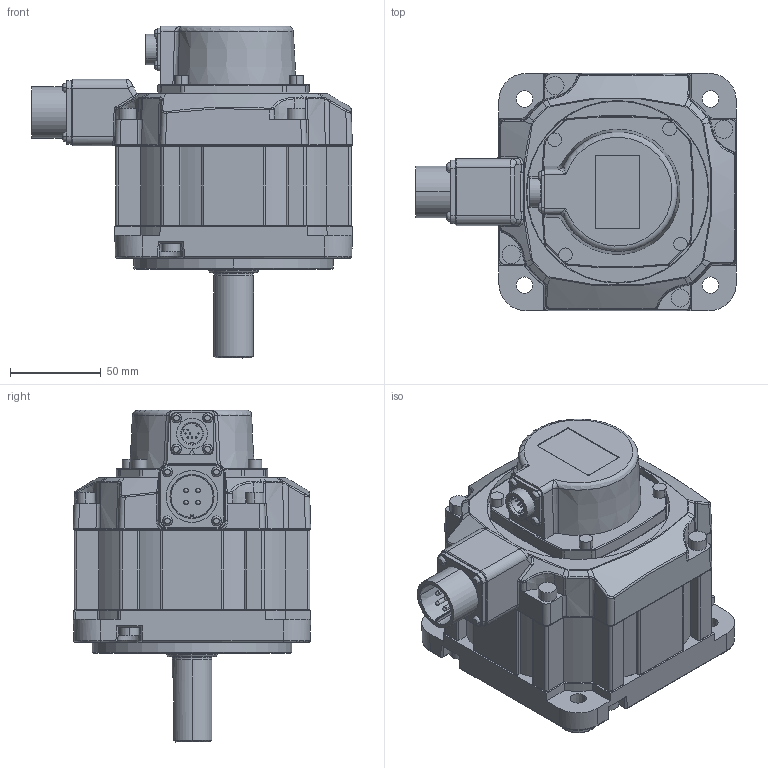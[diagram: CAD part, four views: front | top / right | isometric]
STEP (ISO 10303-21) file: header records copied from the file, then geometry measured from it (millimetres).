
FILE_DESCRIPTION((''),'2;1');
FILE_NAME('ECM-B3M-E21310RS1-1','2019-05-23T',('MIO.CHEN'),(''),'CREO PARAMETRIC BY PTC INC, 2015080','CREO PARAMETRIC BY PTC INC, 2015080','');
FILE_SCHEMA(('CONFIG_CONTROL_DESIGN'));
Length unit declared in the file: millimetre
Products named in the file (1): ECM-B3M-E21310RS1-1
Bounding box: 176.72 x 130.93 x 182.9 mm (x, y, z)
Volume: 1569037.5 mm3; surface area: 112931.6 mm2
Topology: 1 solids, 3 shells, 920 faces, 2347 edges, 1487 vertices
Faces by surface type: cylinder 335, plane 284, bspline 139, cone 107, torus 42, sphere 11, revolution 2
Entity records: 34956 total; most frequent: CARTESIAN_POINT 13125, ORIENTED_EDGE 4674, DIRECTION 4488, EDGE_CURVE 2337, AXIS2_PLACEMENT_3D 1740, VERTEX_POINT 1487, VECTOR 1006, LINE 1006
